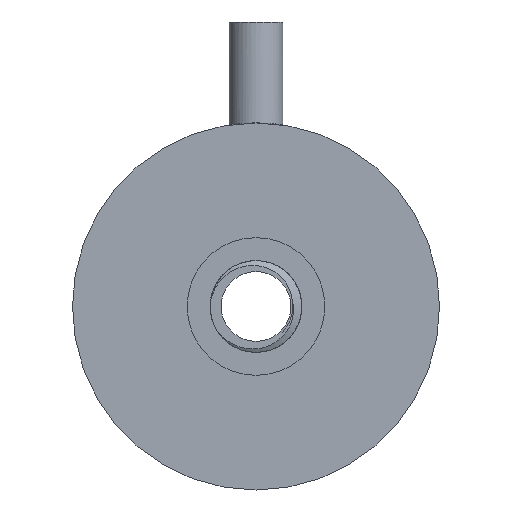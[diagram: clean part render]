
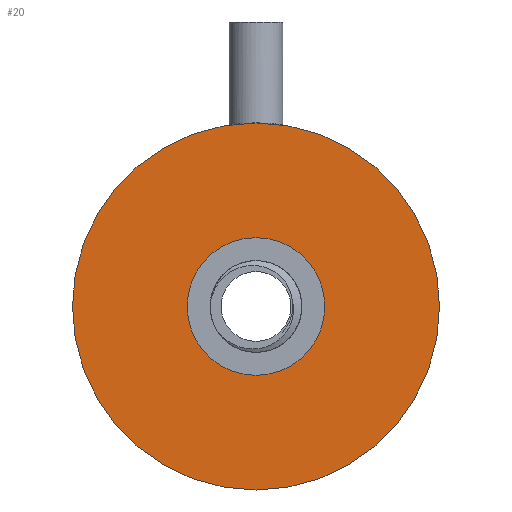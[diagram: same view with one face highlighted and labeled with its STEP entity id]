
A CAD part, front view. The second image highlights one B-rep face of the part: STEP entity #20.
In plain terms, the highlighted planar face has unit normal (0, -1, 0).
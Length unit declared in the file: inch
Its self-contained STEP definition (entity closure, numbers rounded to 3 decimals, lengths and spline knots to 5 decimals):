
#20 = ADVANCED_FACE ( 'NONE', ( #1260, #1295 ), #1756, .F. ) ;
#72 = DIRECTION ( 'NONE',  ( 0., 0., 1. ) ) ;
#77 = CARTESIAN_POINT ( 'NONE',  ( 0., 0.033, 0. ) ) ;
#79 = DIRECTION ( 'NONE',  ( 0., 1., 0. ) ) ;
#84 = DIRECTION ( 'NONE',  ( 0., 1., 0. ) ) ;
#97 = CARTESIAN_POINT ( 'NONE',  ( 0., 0.033, 0. ) ) ;
#101 = DIRECTION ( 'NONE',  ( 0., 0., 1. ) ) ;
#455 = VERTEX_POINT ( 'NONE', #1014 ) ;
#471 = VERTEX_POINT ( 'NONE', #962 ) ;
#488 = VERTEX_POINT ( 'NONE', #990 ) ;
#492 = VERTEX_POINT ( 'NONE', #958 ) ;
#958 = CARTESIAN_POINT ( 'NONE',  ( 0., 0.033, -0.5 ) ) ;
#962 = CARTESIAN_POINT ( 'NONE',  ( 0., 0.033, 0.5 ) ) ;
#990 = CARTESIAN_POINT ( 'NONE',  ( 0., 0.033, 0.1875 ) ) ;
#1014 = CARTESIAN_POINT ( 'NONE',  ( 0., 0.033, -0.1875 ) ) ;
#1133 = ORIENTED_EDGE ( 'NONE', *, *, #3200, .T. ) ;
#1143 = ORIENTED_EDGE ( 'NONE', *, *, #3195, .F. ) ;
#1181 = ORIENTED_EDGE ( 'NONE', *, *, #3229, .T. ) ;
#1182 = ORIENTED_EDGE ( 'NONE', *, *, #3196, .F. ) ;
#1260 = FACE_OUTER_BOUND ( 'NONE', #2037, .T. ) ;
#1295 = FACE_BOUND ( 'NONE', #2003, .T. ) ;
#1451 = CIRCLE ( 'NONE', #3347, 0.1875 ) ;
#1454 = CIRCLE ( 'NONE', #3340, 0.5 ) ;
#1481 = CIRCLE ( 'NONE', #3346, 0.5 ) ;
#1499 = CIRCLE ( 'NONE', #3336, 0.1875 ) ;
#1737 = DIRECTION ( 'NONE',  ( 0., 1., 0. ) ) ;
#1756 = PLANE ( 'NONE',  #3294 ) ;
#1757 = DIRECTION ( 'NONE',  ( 0., 0., 1. ) ) ;
#1768 = CARTESIAN_POINT ( 'NONE',  ( 0., 0.033, 0. ) ) ;
#2003 = EDGE_LOOP ( 'NONE', ( #1133, #1181 ) ) ;
#2037 = EDGE_LOOP ( 'NONE', ( #1143, #1182 ) ) ;
#2545 = CARTESIAN_POINT ( 'NONE',  ( 0., 0.033, 0. ) ) ;
#2578 = DIRECTION ( 'NONE',  ( 0., 1., 0. ) ) ;
#2590 = DIRECTION ( 'NONE',  ( 0., 0., 1. ) ) ;
#2807 = CARTESIAN_POINT ( 'NONE',  ( 0., 0.033, 0. ) ) ;
#2829 = DIRECTION ( 'NONE',  ( 0., 0., 1. ) ) ;
#2835 = DIRECTION ( 'NONE',  ( 0., 1., 0. ) ) ;
#3195 = EDGE_CURVE ( 'NONE', #471, #492, #1481, .T. ) ;
#3196 = EDGE_CURVE ( 'NONE', #492, #471, #1454, .T. ) ;
#3200 = EDGE_CURVE ( 'NONE', #455, #488, #1451, .T. ) ;
#3229 = EDGE_CURVE ( 'NONE', #488, #455, #1499, .T. ) ;
#3294 = AXIS2_PLACEMENT_3D ( 'NONE', #1768, #1737, #1757 ) ;
#3336 = AXIS2_PLACEMENT_3D ( 'NONE', #2807, #2835, #2829 ) ;
#3340 = AXIS2_PLACEMENT_3D ( 'NONE', #97, #79, #101 ) ;
#3346 = AXIS2_PLACEMENT_3D ( 'NONE', #77, #84, #72 ) ;
#3347 = AXIS2_PLACEMENT_3D ( 'NONE', #2545, #2578, #2590 ) ;
